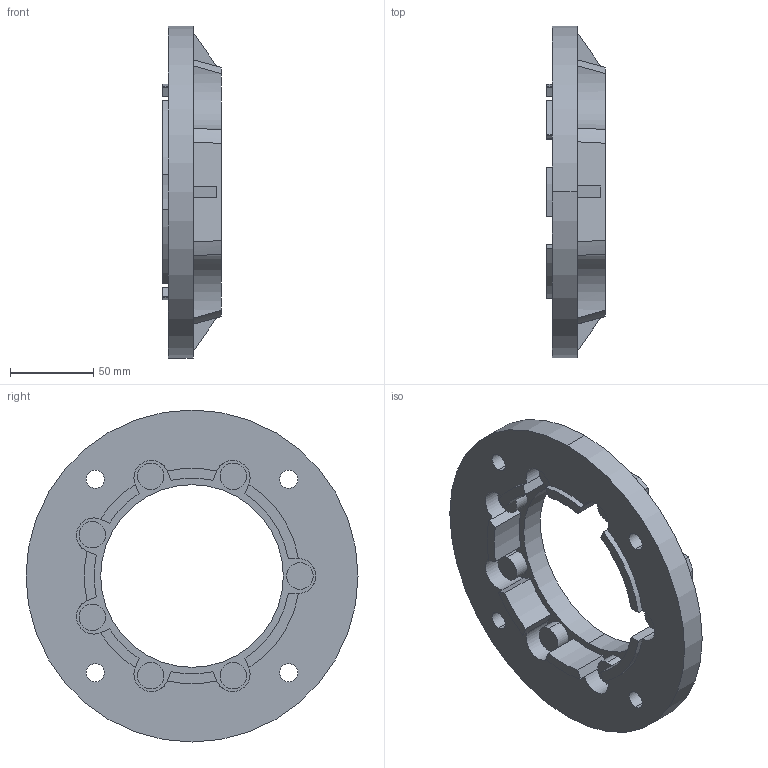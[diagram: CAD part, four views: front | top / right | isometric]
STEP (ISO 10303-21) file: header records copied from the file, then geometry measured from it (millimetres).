
FILE_DESCRIPTION(/* description */ (''),/* implementation_level */ '2;1');
FILE_NAME(/* name */ '3_FLANGIA (CAMPANA) LATERALE FC H062',/* time_stamp */ '2025-10-31T14:32:20+01:00',/* author */ (''),/* organization */ (''),/* preprocessor_version */ 'ST-DEVELOPER v19.2',/* originating_system */ 'Rhino 8.23',/* authorisation */ '');
FILE_SCHEMA (('CONFIG_CONTROL_DESIGN'));
Length unit declared in the file: millimetre
Products named in the file (2): Document; FU062FC-19
Bounding box: 35.5 x 200 x 200 mm (x, y, z)
Volume: 432243.1 mm3; surface area: 83008.6 mm2
Topology: 1 solids, 1 shells, 107 faces, 288 edges, 192 vertices
Faces by surface type: cylinder 51, plane 48, bspline 8
Entity records: 4652 total; most frequent: CARTESIAN_POINT 1083, ORIENTED_EDGE 576, DIRECTION 371, EDGE_CURVE 288, AXIS2_PLACEMENT_3D 235, VERTEX_POINT 192, B_SPLINE_CURVE_WITH_KNOTS 156, TRIMMED_CURVE 132
